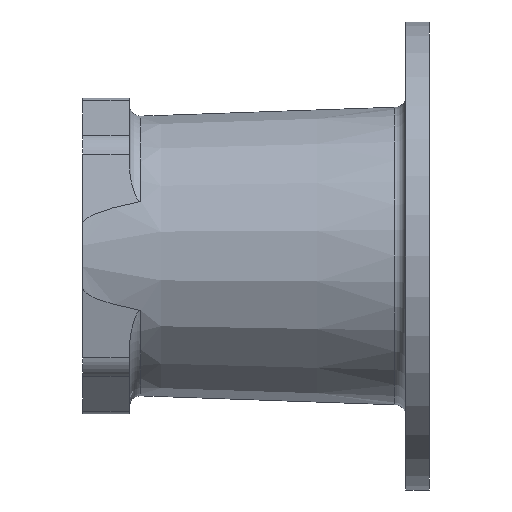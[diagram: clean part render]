
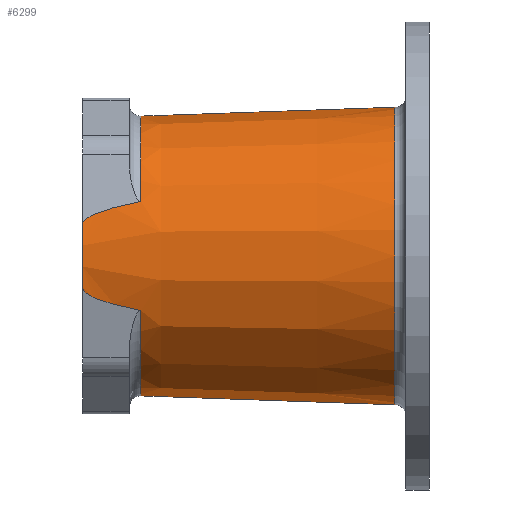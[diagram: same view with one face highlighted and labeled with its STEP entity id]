
A CAD part, left-side view. The second image highlights one B-rep face of the part: STEP entity #6299.
In plain terms, the highlighted conical face has half-angle 2 degrees and reference radius 56.111 mm.
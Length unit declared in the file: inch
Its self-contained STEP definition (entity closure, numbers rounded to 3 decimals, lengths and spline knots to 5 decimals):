
#1 = CARTESIAN_POINT ( 'NONE',  ( -2.06446, 4.62372, -0.87389 ) ) ;
#160 = VERTEX_POINT ( 'NONE', #4310 ) ;
#303 = VERTEX_POINT ( 'NONE', #2207 ) ;
#399 = CARTESIAN_POINT ( 'NONE',  ( 0., 0.55372, 0. ) ) ;
#482 = CARTESIAN_POINT ( 'NONE',  ( -2.13381, 5.52235, 0.57698 ) ) ;
#490 = CONICAL_SURFACE ( 'NONE', #1610, 2.20911, 0.035 ) ;
#505 = DIRECTION ( 'NONE',  ( 0., -1., 0. ) ) ;
#523 = CARTESIAN_POINT ( 'NONE',  ( -2.12059, 5.44269, -0.63357 ) ) ;
#530 = CARTESIAN_POINT ( 'NONE',  ( 0., 5.56, 2.20911 ) ) ;
#801 = CIRCLE ( 'NONE', #2990, 2.24181 ) ;
#891 = DIRECTION ( 'NONE',  ( 0., 0., -1. ) ) ;
#893 = CARTESIAN_POINT ( 'NONE',  ( 0., 4.62372, 0. ) ) ;
#939 = CARTESIAN_POINT ( 'NONE',  ( -2.08689, 5.04744, 0.77788 ) ) ;
#958 = CARTESIAN_POINT ( 'NONE',  ( -2.13953, 5.54335, 0.55248 ) ) ;
#988 = CARTESIAN_POINT ( 'NONE',  ( -2.11483, 5.39474, -0.65825 ) ) ;
#1311 = VERTEX_POINT ( 'NONE', #3295 ) ;
#1373 = DIRECTION ( 'NONE',  ( 0., 0., 1. ) ) ;
#1415 = CARTESIAN_POINT ( 'NONE',  ( 0., 5.56, 0. ) ) ;
#1425 = CARTESIAN_POINT ( 'NONE',  ( -2.09849, 5.2138, 0.72822 ) ) ;
#1432 = ORIENTED_EDGE ( 'NONE', *, *, #5433, .T. ) ;
#1441 = CARTESIAN_POINT ( 'NONE',  ( -2.14624, 5.55754, 0.52375 ) ) ;
#1459 = CARTESIAN_POINT ( 'NONE',  ( -2.14159, 5.54906, -0.54363 ) ) ;
#1482 = CARTESIAN_POINT ( 'NONE',  ( -2.10509, 5.29523, -0.69994 ) ) ;
#1488 = CARTESIAN_POINT ( 'NONE',  ( 0., 5.56, -2.20911 ) ) ;
#1494 = EDGE_CURVE ( 'NONE', #6452, #6400, #3296, .T. ) ;
#1515 = EDGE_CURVE ( 'NONE', #6400, #303, #3770, .T. ) ;
#1547 = EDGE_CURVE ( 'NONE', #303, #160, #3010, .T. ) ;
#1597 = ORIENTED_EDGE ( 'NONE', *, *, #1547, .T. ) ;
#1610 = AXIS2_PLACEMENT_3D ( 'NONE', #1415, #6055, #5004 ) ;
#1692 = AXIS2_PLACEMENT_3D ( 'NONE', #399, #3923, #891 ) ;
#1788 = CARTESIAN_POINT ( 'NONE',  ( 0., 0.55372, 2.38393 ) ) ;
#1966 = CARTESIAN_POINT ( 'NONE',  ( -2.10874, 5.33633, 0.68432 ) ) ;
#1987 = CARTESIAN_POINT ( 'NONE',  ( -2.15122, 5.56, 0.50241 ) ) ;
#2010 = CARTESIAN_POINT ( 'NONE',  ( -2.13554, 5.52966, -0.56957 ) ) ;
#2030 = CARTESIAN_POINT ( 'NONE',  ( -2.09541, 5.17186, -0.74138 ) ) ;
#2033 = DIRECTION ( 'NONE',  ( 0., -0.999, -0.035 ) ) ;
#2144 = ORIENTED_EDGE ( 'NONE', *, *, #1494, .T. ) ;
#2199 = LINE ( 'NONE', #530, #3421 ) ;
#2207 = CARTESIAN_POINT ( 'NONE',  ( -2.15122, 5.56, -0.50241 ) ) ;
#2292 = CIRCLE ( 'NONE', #1692, 2.38393 ) ;
#2481 = CARTESIAN_POINT ( 'NONE',  ( -2.11712, 5.41517, 0.64842 ) ) ;
#2489 = CARTESIAN_POINT ( 'NONE',  ( 0., 4.62372, 0. ) ) ;
#2514 = CARTESIAN_POINT ( 'NONE',  ( -2.13038, 5.50592, -0.59167 ) ) ;
#2535 = CARTESIAN_POINT ( 'NONE',  ( -2.08188, 4.96295, -0.7993 ) ) ;
#2896 = CARTESIAN_POINT ( 'NONE',  ( -2.07267, 4.79399, 0.83876 ) ) ;
#2929 = AXIS2_PLACEMENT_3D ( 'NONE', #2489, #6082, #3008 ) ;
#2990 = AXIS2_PLACEMENT_3D ( 'NONE', #893, #4439, #1373 ) ;
#2999 = CARTESIAN_POINT ( 'NONE',  ( -2.12452, 5.47179, 0.61673 ) ) ;
#3008 = DIRECTION ( 'NONE',  ( 0., 0., 1. ) ) ;
#3010 = B_SPLINE_CURVE_WITH_KNOTS ( 'NONE', 3,
 ( #6091, #6569, #4534, #1459, #5048, #2010, #5567, #2514, #6109, #3039, #6630, #3545, #523, #4040, #988, #4550, #1482, #5071, #2030, #5587, #2535, #6133, #3059, #1 ),
 .UNSPECIFIED., .F., .F.,
 ( 4, 2, 2, 2, 2, 2, 2, 2, 2, 2, 2, 4 ),
 ( 0., 0.00083, 0.00167, 0.0025, 0.00333, 0.00417, 0.005, 0.00667, 0.01, 0.01333, 0.02, 0.02667 ),
 .UNSPECIFIED. ) ;
#3039 = CARTESIAN_POINT ( 'NONE',  ( -2.12587, 5.47975, -0.61098 ) ) ;
#3059 = CARTESIAN_POINT ( 'NONE',  ( -2.06844, 4.70891, -0.85686 ) ) ;
#3253 = CARTESIAN_POINT ( 'NONE',  ( 0., 4.62372, 2.24181 ) ) ;
#3289 = VERTEX_POINT ( 'NONE', #3253 ) ;
#3295 = CARTESIAN_POINT ( 'NONE',  ( 0., 4.62372, -2.24181 ) ) ;
#3296 = B_SPLINE_CURVE_WITH_KNOTS ( 'NONE', 3,
 ( #3490, #4994, #2896, #3983, #939, #4490, #1425, #5017, #1966, #5529, #2481, #6068, #2999, #6589, #3516, #482, #4002, #958, #4514, #1441, #5032, #1987 ),
 .UNSPECIFIED., .F., .F.,
 ( 4, 2, 2, 2, 2, 2, 2, 2, 2, 2, 4 ),
 ( -0.00484, 0.00179, 0.00842, 0.01173, 0.01505, 0.01671, 0.01836, 0.01919, 0.02002, 0.02085, 0.02168 ),
 .UNSPECIFIED. ) ;
#3421 = VECTOR ( 'NONE', #3547, 39.37008 ) ;
#3490 = CARTESIAN_POINT ( 'NONE',  ( -2.06446, 4.62372, 0.87389 ) ) ;
#3516 = CARTESIAN_POINT ( 'NONE',  ( -2.13046, 5.50634, 0.59132 ) ) ;
#3530 = CARTESIAN_POINT ( 'NONE',  ( 0., 5.56, 0. ) ) ;
#3545 = CARTESIAN_POINT ( 'NONE',  ( -2.12184, 5.45209, -0.62824 ) ) ;
#3547 = DIRECTION ( 'NONE',  ( 0., -0.999, 0.035 ) ) ;
#3724 = ORIENTED_EDGE ( 'NONE', *, *, #5483, .T. ) ;
#3770 = CIRCLE ( 'NONE', #4432, 2.20911 ) ;
#3859 = ORIENTED_EDGE ( 'NONE', *, *, #1515, .T. ) ;
#3923 = DIRECTION ( 'NONE',  ( 0., 1., 0. ) ) ;
#3983 = CARTESIAN_POINT ( 'NONE',  ( -2.0819, 4.9632, 0.79924 ) ) ;
#4002 = CARTESIAN_POINT ( 'NONE',  ( -2.13562, 5.52997, 0.56923 ) ) ;
#4019 = DIRECTION ( 'NONE',  ( 0., 0., -1. ) ) ;
#4040 = CARTESIAN_POINT ( 'NONE',  ( -2.11701, 5.41417, -0.64891 ) ) ;
#4268 = CARTESIAN_POINT ( 'NONE',  ( -2.06446, 4.62372, 0.87389 ) ) ;
#4310 = CARTESIAN_POINT ( 'NONE',  ( -2.06446, 4.62372, -0.87389 ) ) ;
#4364 = CIRCLE ( 'NONE', #2929, 2.24181 ) ;
#4432 = AXIS2_PLACEMENT_3D ( 'NONE', #3530, #505, #4019 ) ;
#4439 = DIRECTION ( 'NONE',  ( 0., -1., 0. ) ) ;
#4490 = CARTESIAN_POINT ( 'NONE',  ( -2.09545, 5.1724, 0.74121 ) ) ;
#4514 = CARTESIAN_POINT ( 'NONE',  ( -2.14167, 5.54922, 0.5433 ) ) ;
#4534 = CARTESIAN_POINT ( 'NONE',  ( -2.14624, 5.55757, -0.52373 ) ) ;
#4550 = CARTESIAN_POINT ( 'NONE',  ( -2.10868, 5.33565, -0.68458 ) ) ;
#4580 = VECTOR ( 'NONE', #2033, 39.37008 ) ;
#4655 = CARTESIAN_POINT ( 'NONE',  ( 0., 0.55372, -2.38393 ) ) ;
#4718 = ORIENTED_EDGE ( 'NONE', *, *, #6489, .F. ) ;
#4800 = ORIENTED_EDGE ( 'NONE', *, *, #6497, .T. ) ;
#4994 = CARTESIAN_POINT ( 'NONE',  ( -2.06844, 4.70896, 0.85685 ) ) ;
#5004 = DIRECTION ( 'NONE',  ( 0., 0., -1. ) ) ;
#5017 = CARTESIAN_POINT ( 'NONE',  ( -2.10514, 5.29579, 0.69973 ) ) ;
#5032 = CARTESIAN_POINT ( 'NONE',  ( -2.14871, 5.56, 0.51315 ) ) ;
#5048 = CARTESIAN_POINT ( 'NONE',  ( -2.13949, 5.54323, -0.55265 ) ) ;
#5071 = CARTESIAN_POINT ( 'NONE',  ( -2.09845, 5.2133, -0.72838 ) ) ;
#5211 = VERTEX_POINT ( 'NONE', #4655 ) ;
#5324 = VERTEX_POINT ( 'NONE', #1788 ) ;
#5433 = EDGE_CURVE ( 'NONE', #3289, #6452, #801, .T. ) ;
#5483 = EDGE_CURVE ( 'NONE', #160, #1311, #4364, .T. ) ;
#5529 = CARTESIAN_POINT ( 'NONE',  ( -2.11493, 5.39568, 0.65781 ) ) ;
#5567 = CARTESIAN_POINT ( 'NONE',  ( -2.13373, 5.52202, -0.57731 ) ) ;
#5587 = CARTESIAN_POINT ( 'NONE',  ( -2.08686, 5.04704, -0.77798 ) ) ;
#5632 = ORIENTED_EDGE ( 'NONE', *, *, #6259, .T. ) ;
#5688 = EDGE_LOOP ( 'NONE', ( #4718, #1432, #2144, #3859, #1597, #3724, #4800, #5632 ) ) ;
#5714 = CARTESIAN_POINT ( 'NONE',  ( -2.15122, 5.56, 0.50241 ) ) ;
#6055 = DIRECTION ( 'NONE',  ( 0., -1., 0. ) ) ;
#6065 = FACE_OUTER_BOUND ( 'NONE', #5688, .T. ) ;
#6068 = CARTESIAN_POINT ( 'NONE',  ( -2.12192, 5.45322, 0.62787 ) ) ;
#6082 = DIRECTION ( 'NONE',  ( 0., -1., 0. ) ) ;
#6091 = CARTESIAN_POINT ( 'NONE',  ( -2.15122, 5.56, -0.50241 ) ) ;
#6109 = CARTESIAN_POINT ( 'NONE',  ( -2.12882, 5.4974, -0.59834 ) ) ;
#6133 = CARTESIAN_POINT ( 'NONE',  ( -2.07266, 4.79389, -0.83878 ) ) ;
#6143 = LINE ( 'NONE', #1488, #4580 ) ;
#6259 = EDGE_CURVE ( 'NONE', #5211, #5324, #2292, .T. ) ;
#6299 = ADVANCED_FACE ( 'NONE', ( #6065 ), #490, .T. ) ;
#6400 = VERTEX_POINT ( 'NONE', #5714 ) ;
#6452 = VERTEX_POINT ( 'NONE', #4268 ) ;
#6489 = EDGE_CURVE ( 'NONE', #3289, #5324, #2199, .T. ) ;
#6497 = EDGE_CURVE ( 'NONE', #1311, #5211, #6143, .T. ) ;
#6569 = CARTESIAN_POINT ( 'NONE',  ( -2.14869, 5.56, -0.51325 ) ) ;
#6589 = CARTESIAN_POINT ( 'NONE',  ( -2.12891, 5.49791, 0.59794 ) ) ;
#6630 = CARTESIAN_POINT ( 'NONE',  ( -2.12447, 5.4706, -0.61695 ) ) ;
